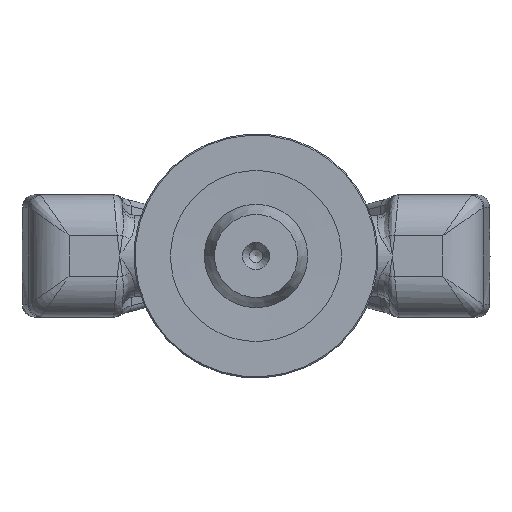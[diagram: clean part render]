
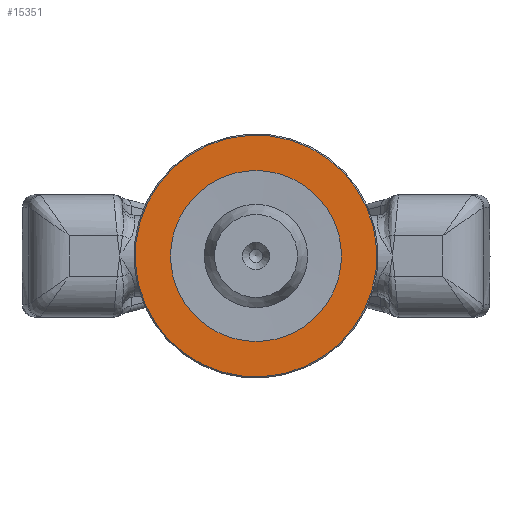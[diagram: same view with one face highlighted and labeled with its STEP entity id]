
A CAD part, front view. The second image highlights one B-rep face of the part: STEP entity #15351.
In plain terms, the highlighted planar face has unit normal (0, -1, 0) as drawn and (0, 0, -1) by its records, which use the part's own axes.
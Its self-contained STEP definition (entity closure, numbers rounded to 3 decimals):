
#310=FACE_BOUND('',#4873,.T.);
#743=PLANE('',#16457);
#3898=FACE_OUTER_BOUND('',#4872,.T.);
#4872=EDGE_LOOP('',(#14440));
#4873=EDGE_LOOP('',(#14441));
#5256=CIRCLE('',#16454,29.7);
#5258=CIRCLE('',#16458,21.);
#7562=VERTEX_POINT('',#49504);
#7564=VERTEX_POINT('',#49510);
#9858=EDGE_CURVE('',#7562,#7562,#5256,.T.);
#9860=EDGE_CURVE('',#7564,#7564,#5258,.T.);
#14440=ORIENTED_EDGE('',*,*,#9858,.F.);
#14441=ORIENTED_EDGE('',*,*,#9860,.F.);
#15351=ADVANCED_FACE('',(#3898,#310),#743,.F.);
#16454=AXIS2_PLACEMENT_3D('',#49505,#19405,#19406);
#16457=AXIS2_PLACEMENT_3D('',#49509,#19411,#19412);
#16458=AXIS2_PLACEMENT_3D('',#49511,#19413,#19414);
#19405=DIRECTION('center_axis',(0.,0.,1.));
#19406=DIRECTION('ref_axis',(-1.,0.,0.));
#19411=DIRECTION('center_axis',(0.,0.,1.));
#19412=DIRECTION('ref_axis',(1.,0.,0.));
#19413=DIRECTION('center_axis',(0.,0.,-1.));
#19414=DIRECTION('ref_axis',(-1.,0.,0.));
#49504=CARTESIAN_POINT('',(29.7,0.,0.));
#49505=CARTESIAN_POINT('Origin',(0.,0.,0.));
#49509=CARTESIAN_POINT('Origin',(0.,0.,0.));
#49510=CARTESIAN_POINT('',(21.,0.,0.));
#49511=CARTESIAN_POINT('Origin',(0.,0.,0.));
